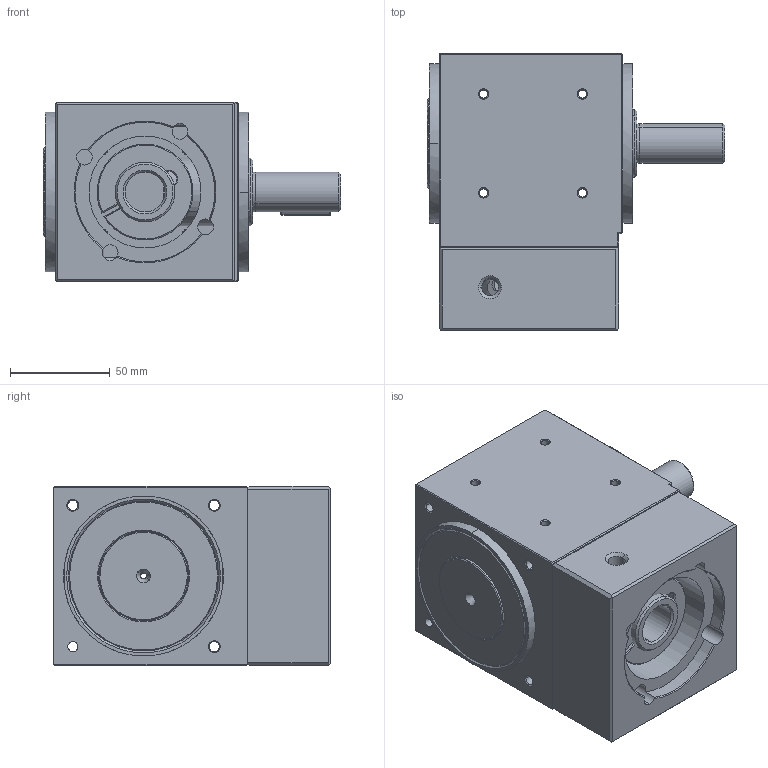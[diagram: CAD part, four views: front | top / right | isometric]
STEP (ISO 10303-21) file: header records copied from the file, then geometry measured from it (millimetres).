
FILE_DESCRIPTION (( 'STEP AP203' ), '1' );
FILE_NAME ('RAS90-R5.STEP', '2018-05-09T06:36:37', ( 'user' ), ( '' ), 'SwSTEP 2.0', 'SolidWorks 2014', '' );
FILE_SCHEMA (( 'CONFIG_CONTROL_DESIGN' ));
Length unit declared in the file: millimetre
Products named in the file (1): RAS90-R5
Bounding box: 149 x 138.5 x 90 mm (x, y, z)
Surface area: 105139.6 mm2 (no closed solid volume)
Topology: 0 solids, 10 shells, 223 faces, 592 edges, 374 vertices
Faces by surface type: cone 77, cylinder 76, plane 70
Entity records: 7421 total; most frequent: CARTESIAN_POINT 1730, DIRECTION 1251, ORIENTED_EDGE 1058, EDGE_CURVE 589, AXIS2_PLACEMENT_3D 475, VERTEX_POINT 374, VECTOR 301, LINE 301
